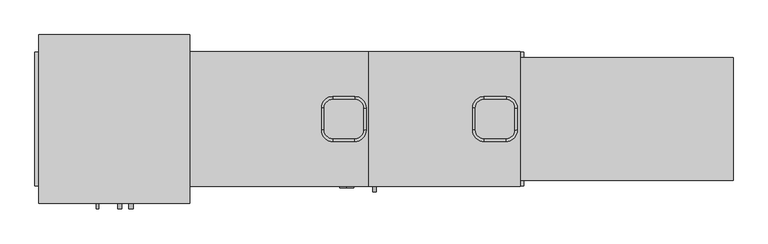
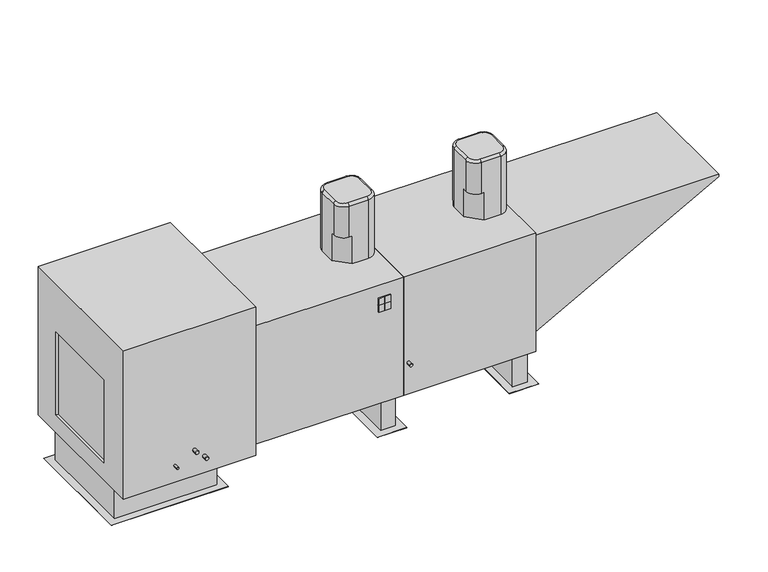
"""IFC4 building model written with IfcOpenShell, lengths in millimetres: proxy geometry, Heater-Direct_Fired_Packaged_Unit-CaptiveAire-Side_Discharge-Cooling_Coil : IHVBDFSAHCC-MPU_D.1000-920."""

from ifc_helpers import new_model, si_unit, point, frame, frame_2d, origin, origin_with_axes, place, context, project, spatial, polyline, circle_curve, ellipse_curve, trimmed, segment, composite_curve, outline, extrude, faceted_brep, source, transform, mapped, element, save
from ifc_brep_helpers import plane_surface, cylinder_surface, revolved_surface, advanced_brep


def mechanical_equipment_c8a8b973(model_context):
    return source(origin(), model_context, "Body", "SolidModel", [
        advanced_brep(
        [(969.9625, -101.6, 2347.9125), (1046.1625, -177.8, 2347.9125), (1249.3625, -177.8, 2347.9125), (1325.5625, -101.6, 2347.9125), (1325.5625, 101.6, 2347.9125), (1249.3625, 177.8, 2347.9125), (1046.1625, 177.8, 2347.9125), (969.9625, 101.6, 2347.9125), (944.5625, 101.6, 1679.575), (1046.1625, 203.2, 1679.575), (1249.3625, 203.2, 1679.575), (1350.9625, 101.6, 1679.575), (1350.9625, -101.6, 1679.575), (1249.3625, -203.2, 1679.575), (1080.0291667, -203.2, 1679.575), (944.5625, -67.7333333, 1679.575), (944.5625, 101.6, 2322.5125), (944.5625, -67.7333333, 1984.375), (944.5625, -101.6, 1984.375), (944.5625, -101.6, 2322.5125), (1046.1625, -203.2, 2322.5125), (1046.1625, -203.2, 1984.375), (1249.3625, -203.2, 2322.5125), (1080.0291667, -203.2, 1984.375), (1350.9625, -101.6, 2322.5125), (1350.9625, 101.6, 2322.5125), (1249.3625, 203.2, 2322.5125), (1046.1625, 203.2, 2322.5125)],
        [
            (0, 1, circle_curve(frame((1046.1625, -101.6, 2347.9125), z_axis=(0.0, 0.0, 1.0), x_axis=(0.0, -1.0, 0.0)), 76.2)),
            (1, 2),
            (2, 3, circle_curve(frame((1249.3625, -101.6, 2347.9125), z_axis=(0.0, 0.0, 1.0), x_axis=(1.0, 0.0, 0.0)), 76.2)),
            (3, 4),
            (4, 5, circle_curve(frame((1249.3625, 101.6, 2347.9125), z_axis=(0.0, 0.0, 1.0), x_axis=(0.0, 1.0, 0.0)), 76.2)),
            (5, 6),
            (6, 7, circle_curve(frame((1046.1625, 101.6, 2347.9125), z_axis=(0.0, 0.0, 1.0), x_axis=(-1.0, 0.0, 0.0)), 76.2)),
            (7, 0),
            (8, 9, circle_curve(frame((1046.1625, 101.6, 1679.575), z_axis=(0.0, 0.0, -1.0), x_axis=(1.0, 0.0, 0.0)), 101.6)),
            (9, 10),
            (10, 11, circle_curve(frame((1249.3625, 101.6, 1679.575), z_axis=(0.0, 0.0, -1.0), x_axis=(1.0, 0.0, 0.0)), 101.6)),
            (11, 12),
            (12, 13, circle_curve(frame((1249.3625, -101.6, 1679.575), z_axis=(0.0, 0.0, -1.0), x_axis=(1.0, 0.0, 0.0)), 101.6)),
            (13, 14),
            (14, 15),
            (15, 8),
            (16, 8),
            (15, 17),
            (17, 18),
            (18, 19),
            (19, 16),
            (20, 19, circle_curve(frame((1046.1625, -101.6, 2322.5125), z_axis=(0.0, 0.0, -1.0), x_axis=(1.0, 0.0, 0.0)), 101.6)),
            (18, 21, circle_curve(frame((1046.1625, -101.6, 1984.375), z_axis=(0.0, 0.0, 1.0), x_axis=(1.0, 0.0, 0.0)), 101.6)),
            (21, 20),
            (13, 22),
            (22, 20),
            (21, 23),
            (23, 14),
            (12, 24),
            (24, 22, circle_curve(frame((1249.3625, -101.6, 2322.5125), z_axis=(0.0, 0.0, -1.0), x_axis=(1.0, 0.0, 0.0)), 101.6)),
            (11, 25),
            (25, 24),
            (10, 26),
            (26, 25, circle_curve(frame((1249.3625, 101.6, 2322.5125), z_axis=(0.0, 0.0, -1.0), x_axis=(1.0, 0.0, 0.0)), 101.6)),
            (9, 27),
            (27, 26),
            (16, 27, circle_curve(frame((1046.1625, 101.6, 2322.5125), z_axis=(0.0, 0.0, -1.0), x_axis=(1.0, 0.0, 0.0)), 101.6)),
            (20, 1, circle_curve(frame((1046.1625, -177.8, 2322.5125), z_axis=(-1.0, 0.0, 0.0), x_axis=(0.0, -1.0, 0.0)), 25.4)),
            (0, 19, circle_curve(frame((969.9625, -101.6, 2322.5125), z_axis=(0.0, -1.0, 0.0), x_axis=(-1.0, 0.0, 0.0)), 25.4)),
            (7, 16, circle_curve(frame((969.9625, 101.6, 2322.5125), z_axis=(0.0, -1.0, 0.0), x_axis=(-1.0, 0.0, 0.0)), 25.4)),
            (6, 27, circle_curve(frame((1046.1625, 177.8, 2322.5125), z_axis=(-1.0, 0.0, 0.0), x_axis=(0.0, 1.0, 0.0)), 25.4)),
            (5, 26, circle_curve(frame((1249.3625, 177.8, 2322.5125), z_axis=(-1.0, 0.0, 0.0), x_axis=(0.0, 1.0, 0.0)), 25.4)),
            (4, 25, circle_curve(frame((1325.5625, 101.6, 2322.5125), z_axis=(0.0, 1.0, 0.0), x_axis=(1.0, 0.0, 0.0)), 25.4)),
            (3, 24, circle_curve(frame((1325.5625, -101.6, 2322.5125), z_axis=(0.0, 1.0, 0.0), x_axis=(1.0, 0.0, 0.0)), 25.4)),
            (2, 22, circle_curve(frame((1249.3625, -177.8, 2322.5125), z_axis=(1.0, 0.0, 0.0), x_axis=(0.0, -1.0, 0.0)), 25.4)),
            (17, 23),
        ],
        [
            plane_surface(frame((944.5625, -101.6, 2347.9125), z_axis=(0.0, 0.0, 1.0), x_axis=(0.0, -1.0, 0.0))),
            plane_surface(frame((944.5625, -101.6, 1679.575), z_axis=(0.0, 0.0, -1.0), x_axis=(0.0, 1.0, 0.0))),
            plane_surface(frame((944.5625, 101.6, 2347.9125), z_axis=(-1.0, 0.0, 0.0), x_axis=(0.0, 0.0, -1.0))),
            cylinder_surface(frame((1046.1625, -101.6, 1679.575), z_axis=(0.0, 0.0, 1.0), x_axis=(1.0, 0.0, 0.0)), 101.6),
            plane_surface(frame((1046.1625, -203.2, 2347.9125), z_axis=(0.0, -1.0, 0.0), x_axis=(0.0, 0.0, -1.0))),
            cylinder_surface(frame((1249.3625, -101.6, 1679.575), z_axis=(0.0, 0.0, 1.0), x_axis=(1.0, 0.0, 0.0)), 101.6),
            plane_surface(frame((1350.9625, -101.6, 2347.9125), z_axis=(1.0, 0.0, 0.0), x_axis=(0.0, 0.0, -1.0))),
            cylinder_surface(frame((1249.3625, 101.6, 1679.575), z_axis=(0.0, 0.0, 1.0), x_axis=(1.0, 0.0, 0.0)), 101.6),
            plane_surface(frame((1249.3625, 203.2, 2347.9125), z_axis=(0.0, 1.0, 0.0), x_axis=(0.0, 0.0, -1.0))),
            cylinder_surface(frame((1046.1625, 101.6, 1679.575), z_axis=(0.0, 0.0, 1.0), x_axis=(1.0, 0.0, 0.0)), 101.6),
            revolved_surface(trimmed(ellipse_curve(frame((1046.1625, -177.8, 2322.5125), z_axis=(1.0, 0.0, 0.0), x_axis=(0.0, -1.0, 0.0)), 25.4, 25.4), [point((1046.1625, -177.8, 2347.9125))], [point((1046.1625, -203.2, 2322.5125))], True, "CARTESIAN"), (1046.1625, -101.6, 2322.5125), (0.0, 0.0, -1.0)),
            cylinder_surface(frame((969.9625, -101.6, 2322.5125), z_axis=(0.0, -1.0, 0.0), x_axis=(-1.0, 0.0, 0.0)), 25.4),
            revolved_surface(trimmed(ellipse_curve(frame((969.9625, 101.6, 2322.5125), z_axis=(0.0, -1.0, 0.0), x_axis=(-1.0, 0.0, 0.0)), 25.4, 25.4), [point((969.9625, 101.6, 2347.9125))], [point((944.5625, 101.6, 2322.5125))], True, "CARTESIAN"), (1046.1625, 101.6, 2322.5125), (0.0, 0.0, -1.0)),
            cylinder_surface(frame((1046.1625, 177.8, 2322.5125), z_axis=(-1.0, 0.0, 0.0), x_axis=(0.0, 1.0, 0.0)), 25.4),
            revolved_surface(trimmed(ellipse_curve(frame((1249.3625, 177.8, 2322.5125), z_axis=(-1.0, 0.0, 0.0), x_axis=(0.0, 1.0, 0.0)), 25.4, 25.4), [point((1249.3625, 177.8, 2347.9125))], [point((1249.3625, 203.2, 2322.5125))], True, "CARTESIAN"), (1249.3625, 101.6, 2322.5125), (0.0, 0.0, -1.0)),
            cylinder_surface(frame((1325.5625, 101.6, 2322.5125), z_axis=(0.0, 1.0, 0.0), x_axis=(1.0, 0.0, 0.0)), 25.4),
            revolved_surface(trimmed(ellipse_curve(frame((1325.5625, -101.6, 2322.5125), z_axis=(0.0, 1.0, 0.0), x_axis=(1.0, 0.0, 0.0)), 25.4, 25.4), [point((1325.5625, -101.6, 2347.9125))], [point((1350.9625, -101.6, 2322.5125))], True, "CARTESIAN"), (1249.3625, -101.6, 2322.5125), (0.0, 0.0, -1.0)),
            cylinder_surface(frame((1249.3625, -177.8, 2322.5125), z_axis=(1.0, 0.0, 0.0), x_axis=(0.0, -1.0, 0.0)), 25.4),
            plane_surface(frame((944.5625, -67.7333333, 1984.375), z_axis=(0.0, 0.0, -1.0), x_axis=(0.0, -1.0, 0.0))),
            plane_surface(frame((944.5625, -67.7333333, 1679.575), z_axis=(-0.7071067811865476, -0.7071067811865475, 0.0), x_axis=(0.0, 0.0, 1.0))),
        ],
        [
            (0, [[1, 2, 3, 4, 5, 6, 7, 8]]),
            (1, [[9, 10, 11, 12, 13, 14, 15, 16]]),
            (2, [[17, -16, 18, 19, 20, 21]]),
            (3, [[22, -20, 23, 24]]),
            (4, [[25, 26, -24, 27, 28, -14]]),
            (5, [[-13, 29, 30, -25]]),
            (6, [[-12, 31, 32, -29]]),
            (7, [[-11, 33, 34, -31]]),
            (8, [[-10, 35, 36, -33]]),
            (9, [[-9, -17, 37, -35]]),
            (10, [[38, -1, 39, -22]]),
            (11, [[-39, -8, 40, -21]]),
            (12, [[-40, -7, 41, -37]]),
            (13, [[-41, -6, 42, -36]]),
            (14, [[-42, -5, 43, -34]]),
            (15, [[-43, -4, 44, -32]]),
            (16, [[-44, -3, 45, -30]]),
            (17, [[-38, -26, -45, -2]]),
            (18, [[46, -27, -23, -19]]),
            (19, [[-46, -18, -15, -28]]),
        ],
    ),
        advanced_brep(
        [(-406.4, -101.6, 2347.9125), (-330.2, -177.8, 2347.9125), (-127.0, -177.8, 2347.9125), (-50.8, -101.6, 2347.9125), (-50.8, 101.6, 2347.9125), (-127.0, 177.8, 2347.9125), (-330.2, 177.8, 2347.9125), (-406.4, 101.6, 2347.9125), (-431.8, 101.6, 1679.575), (-330.2, 203.2, 1679.575), (-127.0, 203.2, 1679.575), (-25.4, 101.6, 1679.575), (-25.4, -101.6, 1679.575), (-127.0, -203.2, 1679.575), (-296.3333333, -203.2, 1679.575), (-431.8, -67.7333333, 1679.575), (-431.8, 101.6, 2322.5125), (-431.8, -67.7333333, 1984.375), (-431.8, -101.6, 1984.375), (-431.8, -101.6, 2322.5125), (-330.2, -203.2, 2322.5125), (-330.2, -203.2, 1984.375), (-127.0, -203.2, 2322.5125), (-296.3333333, -203.2, 1984.375), (-25.4, -101.6, 2322.5125), (-25.4, 101.6, 2322.5125), (-127.0, 203.2, 2322.5125), (-330.2, 203.2, 2322.5125)],
        [
            (0, 1, circle_curve(frame((-330.2, -101.6, 2347.9125), z_axis=(0.0, 0.0, 1.0), x_axis=(0.0, -1.0, 0.0)), 76.2)),
            (1, 2),
            (2, 3, circle_curve(frame((-127.0, -101.6, 2347.9125), z_axis=(0.0, 0.0, 1.0), x_axis=(1.0, 0.0, 0.0)), 76.2)),
            (3, 4),
            (4, 5, circle_curve(frame((-127.0, 101.6, 2347.9125), z_axis=(0.0, 0.0, 1.0), x_axis=(0.0, 1.0, 0.0)), 76.2)),
            (5, 6),
            (6, 7, circle_curve(frame((-330.2, 101.6, 2347.9125), z_axis=(0.0, 0.0, 1.0), x_axis=(-1.0, 0.0, 0.0)), 76.2)),
            (7, 0),
            (8, 9, circle_curve(frame((-330.2, 101.6, 1679.575), z_axis=(0.0, 0.0, -1.0), x_axis=(1.0, 0.0, 0.0)), 101.6)),
            (9, 10),
            (10, 11, circle_curve(frame((-127.0, 101.6, 1679.575), z_axis=(0.0, 0.0, -1.0), x_axis=(1.0, 0.0, 0.0)), 101.6)),
            (11, 12),
            (12, 13, circle_curve(frame((-127.0, -101.6, 1679.575), z_axis=(0.0, 0.0, -1.0), x_axis=(1.0, 0.0, 0.0)), 101.6)),
            (13, 14),
            (14, 15),
            (15, 8),
            (16, 8),
            (15, 17),
            (17, 18),
            (18, 19),
            (19, 16),
            (20, 19, circle_curve(frame((-330.2, -101.6, 2322.5125), z_axis=(0.0, 0.0, -1.0), x_axis=(1.0, 0.0, 0.0)), 101.6)),
            (18, 21, circle_curve(frame((-330.2, -101.6, 1984.375), z_axis=(0.0, 0.0, 1.0), x_axis=(1.0, 0.0, 0.0)), 101.6)),
            (21, 20),
            (13, 22),
            (22, 20),
            (21, 23),
            (23, 14),
            (12, 24),
            (24, 22, circle_curve(frame((-127.0, -101.6, 2322.5125), z_axis=(0.0, 0.0, -1.0), x_axis=(1.0, 0.0, 0.0)), 101.6)),
            (11, 25),
            (25, 24),
            (10, 26),
            (26, 25, circle_curve(frame((-127.0, 101.6, 2322.5125), z_axis=(0.0, 0.0, -1.0), x_axis=(1.0, 0.0, 0.0)), 101.6)),
            (9, 27),
            (27, 26),
            (16, 27, circle_curve(frame((-330.2, 101.6, 2322.5125), z_axis=(0.0, 0.0, -1.0), x_axis=(1.0, 0.0, 0.0)), 101.6)),
            (20, 1, circle_curve(frame((-330.2, -177.8, 2322.5125), z_axis=(-1.0, 0.0, 0.0), x_axis=(0.0, -1.0, 0.0)), 25.4)),
            (0, 19, circle_curve(frame((-406.4, -101.6, 2322.5125), z_axis=(0.0, -1.0, 0.0), x_axis=(-1.0, 0.0, 0.0)), 25.4)),
            (7, 16, circle_curve(frame((-406.4, 101.6, 2322.5125), z_axis=(0.0, -1.0, 0.0), x_axis=(-1.0, 0.0, 0.0)), 25.4)),
            (6, 27, circle_curve(frame((-330.2, 177.8, 2322.5125), z_axis=(-1.0, 0.0, 0.0), x_axis=(0.0, 1.0, 0.0)), 25.4)),
            (5, 26, circle_curve(frame((-127.0, 177.8, 2322.5125), z_axis=(-1.0, 0.0, 0.0), x_axis=(0.0, 1.0, 0.0)), 25.4)),
            (4, 25, circle_curve(frame((-50.8, 101.6, 2322.5125), z_axis=(0.0, 1.0, 0.0), x_axis=(1.0, 0.0, 0.0)), 25.4)),
            (3, 24, circle_curve(frame((-50.8, -101.6, 2322.5125), z_axis=(0.0, 1.0, 0.0), x_axis=(1.0, 0.0, 0.0)), 25.4)),
            (2, 22, circle_curve(frame((-127.0, -177.8, 2322.5125), z_axis=(1.0, 0.0, 0.0), x_axis=(0.0, -1.0, 0.0)), 25.4)),
            (17, 23),
        ],
        [
            plane_surface(frame((-431.8, -101.6, 2347.9125), z_axis=(0.0, 0.0, 1.0), x_axis=(0.0, -1.0, 0.0))),
            plane_surface(frame((-431.8, -101.6, 1679.575), z_axis=(0.0, 0.0, -1.0), x_axis=(0.0, 1.0, 0.0))),
            plane_surface(frame((-431.8, 101.6, 2347.9125), z_axis=(-1.0, 0.0, 0.0), x_axis=(0.0, 0.0, -1.0))),
            cylinder_surface(frame((-330.2, -101.6, 1679.575), z_axis=(0.0, 0.0, 1.0), x_axis=(1.0, 0.0, 0.0)), 101.6),
            plane_surface(frame((-330.2, -203.2, 2347.9125), z_axis=(0.0, -1.0, 0.0), x_axis=(0.0, 0.0, -1.0))),
            cylinder_surface(frame((-127.0, -101.6, 1679.575), z_axis=(0.0, 0.0, 1.0), x_axis=(1.0, 0.0, 0.0)), 101.6),
            plane_surface(frame((-25.4, -101.6, 2347.9125), z_axis=(1.0, 0.0, 0.0), x_axis=(0.0, 0.0, -1.0))),
            cylinder_surface(frame((-127.0, 101.6, 1679.575), z_axis=(0.0, 0.0, 1.0), x_axis=(1.0, 0.0, 0.0)), 101.6),
            plane_surface(frame((-127.0, 203.2, 2347.9125), z_axis=(0.0, 1.0, 0.0), x_axis=(0.0, 0.0, -1.0))),
            cylinder_surface(frame((-330.2, 101.6, 1679.575), z_axis=(0.0, 0.0, 1.0), x_axis=(1.0, 0.0, 0.0)), 101.6),
            revolved_surface(trimmed(ellipse_curve(frame((-330.2, -177.8, 2322.5125), z_axis=(1.0, 0.0, 0.0), x_axis=(0.0, -1.0, 0.0)), 25.4, 25.4), [point((-330.2, -177.8, 2347.9125))], [point((-330.2, -203.2, 2322.5125))], True, "CARTESIAN"), (-330.2, -101.6, 2322.5125), (0.0, 0.0, -1.0)),
            cylinder_surface(frame((-406.4, -101.6, 2322.5125), z_axis=(0.0, -1.0, 0.0), x_axis=(-1.0, 0.0, 0.0)), 25.4),
            revolved_surface(trimmed(ellipse_curve(frame((-406.4, 101.6, 2322.5125), z_axis=(0.0, -1.0, 0.0), x_axis=(-1.0, 0.0, 0.0)), 25.4, 25.4), [point((-406.4, 101.6, 2347.9125))], [point((-431.8, 101.6, 2322.5125))], True, "CARTESIAN"), (-330.2, 101.6, 2322.5125), (0.0, 0.0, -1.0)),
            cylinder_surface(frame((-330.2, 177.8, 2322.5125), z_axis=(-1.0, 0.0, 0.0), x_axis=(0.0, 1.0, 0.0)), 25.4),
            revolved_surface(trimmed(ellipse_curve(frame((-127.0, 177.8, 2322.5125), z_axis=(-1.0, 0.0, 0.0), x_axis=(0.0, 1.0, 0.0)), 25.4, 25.4), [point((-127.0, 177.8, 2347.9125))], [point((-127.0, 203.2, 2322.5125))], True, "CARTESIAN"), (-127.0, 101.6, 2322.5125), (0.0, 0.0, -1.0)),
            cylinder_surface(frame((-50.8, 101.6, 2322.5125), z_axis=(0.0, 1.0, 0.0), x_axis=(1.0, 0.0, 0.0)), 25.4),
            revolved_surface(trimmed(ellipse_curve(frame((-50.8, -101.6, 2322.5125), z_axis=(0.0, 1.0, 0.0), x_axis=(1.0, 0.0, 0.0)), 25.4, 25.4), [point((-50.8, -101.6, 2347.9125))], [point((-25.4, -101.6, 2322.5125))], True, "CARTESIAN"), (-127.0, -101.6, 2322.5125), (0.0, 0.0, -1.0)),
            cylinder_surface(frame((-127.0, -177.8, 2322.5125), z_axis=(1.0, 0.0, 0.0), x_axis=(0.0, -1.0, 0.0)), 25.4),
            plane_surface(frame((-431.8, -67.7333333, 1984.375), z_axis=(0.0, 0.0, -1.0), x_axis=(0.0, -1.0, 0.0))),
            plane_surface(frame((-431.8, -67.7333333, 1679.575), z_axis=(-0.7071067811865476, -0.7071067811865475, 0.0), x_axis=(0.0, 0.0, 1.0))),
        ],
        [
            (0, [[1, 2, 3, 4, 5, 6, 7, 8]]),
            (1, [[9, 10, 11, 12, 13, 14, 15, 16]]),
            (2, [[17, -16, 18, 19, 20, 21]]),
            (3, [[22, -20, 23, 24]]),
            (4, [[25, 26, -24, 27, 28, -14]]),
            (5, [[-13, 29, 30, -25]]),
            (6, [[-12, 31, 32, -29]]),
            (7, [[-11, 33, 34, -31]]),
            (8, [[-10, 35, 36, -33]]),
            (9, [[-9, -17, 37, -35]]),
            (10, [[38, -1, 39, -22]]),
            (11, [[-39, -8, 40, -21]]),
            (12, [[-40, -7, 41, -37]]),
            (13, [[-41, -6, 42, -36]]),
            (14, [[-42, -5, 43, -34]]),
            (15, [[-43, -4, 44, -32]]),
            (16, [[-44, -3, 45, -30]]),
            (17, [[-38, -26, -45, -2]]),
            (18, [[46, -27, -23, -19]]),
            (19, [[-46, -18, -15, -28]]),
        ],
    ),
        extrude(outline(polyline([(1411.2875, -609.6), (1106.4875, -609.6), (1106.4875, 609.6), (1411.2875, 609.6), (1411.2875, -609.6)])), origin_with_axes(), (0.0, 0.0, 1.0), 3.175),
        extrude(outline(polyline([(1335.0875, 533.4), (1335.0875, -533.4), (1182.6875, -533.4), (1182.6875, 533.4), (1335.0875, 533.4)])), frame((0.0, 0.0, 3.175), z_axis=(0.0, 0.0, 1.0), x_axis=(1.0, 0.0, 0.0)), (0.0, 0.0, 1.0), 504.825),
        faceted_brep([(-1630.3625, 768.35, 2009.775), (-3006.725, 768.35, 2009.775), (-3006.725, -768.35, 2009.775), (-1630.3625, -768.35, 2009.775), (-1630.3625, 768.35, 374.65), (-1630.3625, -768.35, 374.65), (-3006.725, -768.35, 374.65), (-3006.725, 768.35, 374.65), (-1636.7125, 762.0, 374.65), (-3000.375, 762.0, 374.65), (-3000.375, -762.0, 374.65), (-1636.7125, -762.0, 374.65), (-3006.725, 450.85, 1476.375), (-3006.725, -412.75, 1476.375), (-3006.725, -412.75, 561.975), (-3006.725, 450.85, 561.975), (-1636.7125, 762.0, 508.0), (-1636.7125, -762.0, 508.0), (-3000.375, -762.0, 508.0), (-3000.375, 762.0, 508.0), (-2981.325, -412.75, 1476.375), (-2981.325, 450.85, 1476.375), (-2981.325, 450.85, 561.975), (-2981.325, -412.75, 561.975)], [[[0, 1, 2, 3]], [[4, 5, 6, 7], [8, 9, 10, 11]], [[0, 3, 5, 4]], [[3, 2, 6, 5]], [[2, 1, 7, 6], [12, 13, 14, 15]], [[1, 0, 4, 7]], [[16, 17, 18, 19]], [[16, 19, 9, 8]], [[19, 18, 10, 9]], [[18, 17, 11, 10]], [[17, 16, 8, 11]], [[20, 21, 22, 23]], [[21, 20, 13, 12]], [[22, 21, 12, 15]], [[23, 22, 15, 14]], [[20, 23, 14, 13]]]),
        extrude(outline(composite_curve([segment(trimmed(circle_curve(frame_2d((660.4, -2267.74375)), 19.05), [point((660.4, -2248.69375))], [point((660.4, -2286.79375))], False, "CARTESIAN"), True, "CONTINUOUS"), segment(trimmed(circle_curve(frame_2d((660.4, -2267.74375)), 19.05), [point((660.4, -2286.79375))], [point((660.4, -2248.69375))], False, "CARTESIAN"), True, "CONTINUOUS")], self_intersect=False)), frame((0.0, -819.15, 0.0), z_axis=(0.0, 1.0, 0.0), x_axis=(0.0, 0.0, 1.0)), (0.0, 0.0, 1.0), 50.8),
        extrude(outline(composite_curve([segment(trimmed(circle_curve(frame_2d((558.8, -2166.14375)), 19.05), [point((558.8, -2147.09375))], [point((558.8, -2185.19375))], False, "CARTESIAN"), True, "CONTINUOUS"), segment(trimmed(circle_curve(frame_2d((558.8, -2166.14375)), 19.05), [point((558.8, -2185.19375))], [point((558.8, -2147.09375))], False, "CARTESIAN"), True, "CONTINUOUS")], self_intersect=False)), frame((0.0, -819.15, 0.0), z_axis=(0.0, 1.0, 0.0), x_axis=(0.0, 0.0, 1.0)), (0.0, 0.0, 1.0), 50.8),
        extrude(outline(composite_curve([segment(trimmed(circle_curve(frame_2d((558.8, -2470.94375)), 12.7), [point((558.8, -2458.24375))], [point((558.8, -2483.64375))], False, "CARTESIAN"), True, "CONTINUOUS"), segment(trimmed(circle_curve(frame_2d((558.8, -2470.94375)), 12.7), [point((558.8, -2483.64375))], [point((558.8, -2458.24375))], False, "CARTESIAN"), True, "CONTINUOUS")], self_intersect=False)), frame((0.0, -819.15, 0.0), z_axis=(0.0, 1.0, 0.0), x_axis=(0.0, 0.0, 1.0)), (0.0, 0.0, 1.0), 50.8),
        extrude(outline(polyline([(36.5125, -609.6), (-268.2875, -609.6), (-268.2875, 609.6), (36.5125, 609.6), (36.5125, -609.6)])), origin_with_axes(), (0.0, 0.0, 1.0), 3.175),
        extrude(outline(polyline([(-39.6875, 533.4), (-39.6875, -533.4), (-192.0875, -533.4), (-192.0875, 533.4), (-39.6875, 533.4)])), frame((0.0, 0.0, 3.175), z_axis=(0.0, 0.0, 1.0), x_axis=(1.0, 0.0, 0.0)), (0.0, 0.0, 1.0), 504.825),
        extrude(outline(polyline([(-1822.45, -609.6), (-3041.65, -609.6), (-3041.65, 609.6), (-1822.45, 609.6), (-1822.45, -609.6)])), origin_with_axes(), (0.0, 0.0, 1.0), 3.175),
        extrude(outline(polyline([(-1898.65, 533.4), (-1898.65, -533.4), (-2965.45, -533.4), (-2965.45, 533.4), (-1898.65, 533.4)])), frame((0.0, 0.0, 3.175), z_axis=(0.0, 0.0, 1.0), x_axis=(1.0, 0.0, 0.0)), (0.0, 0.0, 1.0), 504.825),
        faceted_brep([(1379.5375, -582.6125, 1641.475), (1379.5375, -582.6125, 523.875), (1379.5375, 582.6125, 523.875), (1379.5375, 582.6125, 1641.475), (1379.5375, 560.3875, 1616.075), (1379.5375, 560.3875, 549.275), (1379.5375, -560.3875, 549.275), (1379.5375, -560.3875, 1616.075), (1376.3625, -582.6125, 1641.475), (1376.3625, -582.6125, 523.875), (1376.3625, 582.6125, 523.875), (1376.3625, 582.6125, 1641.475), (3316.2875, 560.3875, 1616.075), (3316.2875, 560.3875, 1590.675), (1401.7625, 560.3875, 549.275), (1401.7625, -560.3875, 549.275), (3316.2875, -560.3875, 1590.675), (3316.2875, -560.3875, 1616.075)], [[[0, 1, 2, 3], [4, 5, 6, 7]], [[1, 0, 8, 9]], [[2, 1, 9, 10]], [[3, 2, 10, 11]], [[0, 3, 11, 8]], [[12, 13, 14, 5, 4]], [[15, 16, 17, 7, 6]], [[8, 11, 10, 9]], [[14, 15, 6, 5]], [[14, 13, 16, 15]], [[13, 12, 17, 16]], [[17, 12, 4, 7]]]),
        faceted_brep([(1376.3625, 615.15625, 1679.575), (0.0, 615.15625, 1679.575), (0.0, -615.15625, 1679.575), (1376.3625, -615.15625, 1679.575), (1376.3625, 615.15625, 374.65), (1376.3625, -615.15625, 374.65), (0.0, -615.15625, 374.65), (0.0, 615.15625, 374.65), (1370.0125, 608.80625, 374.65), (6.35, 608.80625, 374.65), (6.35, -608.80625, 374.65), (1370.0125, -608.80625, 374.65), (1376.3625, -356.39375, 1479.55), (1376.3625, 507.20625, 1479.55), (1376.3625, 507.20625, 565.15), (1376.3625, -356.39375, 565.15), (0.0, 540.54375, 1479.55), (0.0, -323.05625, 1479.55), (0.0, -323.05625, 565.15), (0.0, 540.54375, 565.15), (1370.0125, 608.80625, 508.0), (1370.0125, -608.80625, 508.0), (6.35, -608.80625, 508.0), (6.35, 608.80625, 508.0), (25.4, -323.05625, 1479.55), (25.4, 540.54375, 1479.55), (25.4, 540.54375, 565.15), (25.4, -323.05625, 565.15), (1350.9625, 507.20625, 1479.55), (1350.9625, -356.39375, 1479.55), (1350.9625, -356.39375, 565.15), (1350.9625, 507.20625, 565.15)], [[[0, 1, 2, 3]], [[4, 5, 6, 7], [8, 9, 10, 11]], [[0, 3, 5, 4], [12, 13, 14, 15]], [[3, 2, 6, 5]], [[2, 1, 7, 6], [16, 17, 18, 19]], [[1, 0, 4, 7]], [[20, 21, 22, 23]], [[20, 23, 9, 8]], [[23, 22, 10, 9]], [[22, 21, 11, 10]], [[21, 20, 8, 11]], [[24, 25, 26, 27]], [[25, 24, 17, 16]], [[26, 25, 16, 19]], [[27, 26, 19, 18]], [[24, 27, 18, 17]], [[28, 29, 30, 31]], [[29, 28, 13, 12]], [[30, 29, 12, 15]], [[31, 30, 15, 14]], [[28, 31, 14, 13]]]),
        extrude(outline(composite_curve([segment(trimmed(circle_curve(frame_2d((719.1375, 50.8)), 15.875), [point((719.1375, 66.675))], [point((719.1375, 34.925))], False, "CARTESIAN"), True, "CONTINUOUS"), segment(trimmed(circle_curve(frame_2d((719.1375, 50.8)), 15.875), [point((719.1375, 34.925))], [point((719.1375, 66.675))], False, "CARTESIAN"), True, "CONTINUOUS")], self_intersect=False)), frame((0.0, -665.95625, 0.0), z_axis=(0.0, 1.0, 0.0), x_axis=(0.0, 0.0, 1.0)), (0.0, 0.0, 1.0), 50.8),
        extrude(outline(polyline([(-203.2, -615.15625), (-139.7, -615.15625), (-139.7, -627.85625), (-203.2, -627.85625), (-203.2, -615.15625)])), frame((0.0, 0.0, 1387.475), z_axis=(0.0, 0.0, 1.0), x_axis=(1.0, 0.0, 0.0)), (0.0, 0.0, 1.0), 76.2),
        extrude(outline(polyline([(-266.7, -615.15625), (-203.2, -615.15625), (-203.2, -627.85625), (-266.7, -627.85625), (-266.7, -615.15625)])), frame((0.0, 0.0, 1387.475), z_axis=(0.0, 0.0, 1.0), x_axis=(1.0, 0.0, 0.0)), (0.0, 0.0, 1.0), 76.2),
        extrude(outline(polyline([(-203.2, -615.15625), (-139.7, -615.15625), (-139.7, -627.85625), (-203.2, -627.85625), (-203.2, -615.15625)])), frame((0.0, 0.0, 1463.675), z_axis=(0.0, 0.0, 1.0), x_axis=(1.0, 0.0, 0.0)), (0.0, 0.0, 1.0), 76.2),
        extrude(outline(polyline([(-266.7, -615.15625), (-203.2, -615.15625), (-203.2, -627.85625), (-266.7, -627.85625), (-266.7, -615.15625)])), frame((0.0, 0.0, 1463.675), z_axis=(0.0, 0.0, 1.0), x_axis=(1.0, 0.0, 0.0)), (0.0, 0.0, 1.0), 76.2),
        faceted_brep([(0.0, 615.15625, 1679.575), (-1630.3625, 615.15625, 1679.575), (-1630.3625, -615.15625, 1679.575), (0.0, -615.15625, 1679.575), (0.0, 615.15625, 374.65), (0.0, -615.15625, 374.65), (-1630.3625, -615.15625, 374.65), (-1630.3625, 615.15625, 374.65), (-6.35, 608.80625, 374.65), (-1624.0125, 608.80625, 374.65), (-1624.0125, -608.80625, 374.65), (-6.35, -608.80625, 374.65), (0.0, -448.46875, 1479.55), (0.0, 415.13125, 1479.55), (0.0, 415.13125, 565.15), (0.0, -448.46875, 565.15), (-1630.3625, 334.16875, 1489.075), (-1630.3625, -297.65625, 1489.075), (-1630.3625, -297.65625, 857.25), (-1630.3625, 334.16875, 857.25), (-6.35, 608.80625, 508.0), (-6.35, -608.80625, 508.0), (-1624.0125, -608.80625, 508.0), (-1624.0125, 608.80625, 508.0), (-1604.9625, -297.65625, 1489.075), (-1604.9625, 334.16875, 1489.075), (-1604.9625, 334.16875, 857.25), (-1604.9625, -297.65625, 857.25), (-25.4, 415.13125, 1479.55), (-25.4, -448.46875, 1479.55), (-25.4, -448.46875, 565.15), (-25.4, 415.13125, 565.15)], [[[0, 1, 2, 3]], [[4, 5, 6, 7], [8, 9, 10, 11]], [[0, 3, 5, 4], [12, 13, 14, 15]], [[3, 2, 6, 5]], [[2, 1, 7, 6], [16, 17, 18, 19]], [[1, 0, 4, 7]], [[20, 21, 22, 23]], [[20, 23, 9, 8]], [[23, 22, 10, 9]], [[22, 21, 11, 10]], [[21, 20, 8, 11]], [[24, 25, 26, 27]], [[25, 24, 17, 16]], [[26, 25, 16, 19]], [[27, 26, 19, 18]], [[24, 27, 18, 17]], [[28, 29, 30, 31]], [[29, 28, 13, 12]], [[30, 29, 12, 15]], [[31, 30, 15, 14]], [[28, 31, 14, 13]]]),
    ])


if __name__ == "__main__":
    model = new_model("IFC4")
    model_context = context("Model", 3, world=origin())
    ifc_project = project(units=[si_unit("LENGTHUNIT", "METRE", prefix="MILLI")], contexts=[model_context])
    site = spatial("IfcSite", under=ifc_project)
    building = spatial("IfcBuilding", under=site)
    placement = place(None, origin())
    mechanical_equipment_shape = mechanical_equipment_c8a8b973(model_context)
    element("IfcBuildingElementProxy", 1, Name="Heater-Direct_Fired_Packaged_Unit-CaptiveAire-Side_Discharge-Cooling_Coil : IHVBDFSAHCC-MPU_D.1000-920", ObjectType="Heater-Direct_Fired_Packaged_Unit-CaptiveAire-Side_Discharge-Cooling_Coil : IHVBDFSAHCC-MPU_D.1000-920", at=placement, inside=building, context=model_context, shape_type="MappedRepresentation", body=[
        mapped(mechanical_equipment_shape, transform((0.0, 0.0, 0.0), x_axis=(1.0, 0.0, 0.0), y_axis=(0.0, 1.0, 0.0), z_axis=(0.0, 0.0, 1.0))),
    ])
    save(model, "model.ifc")
